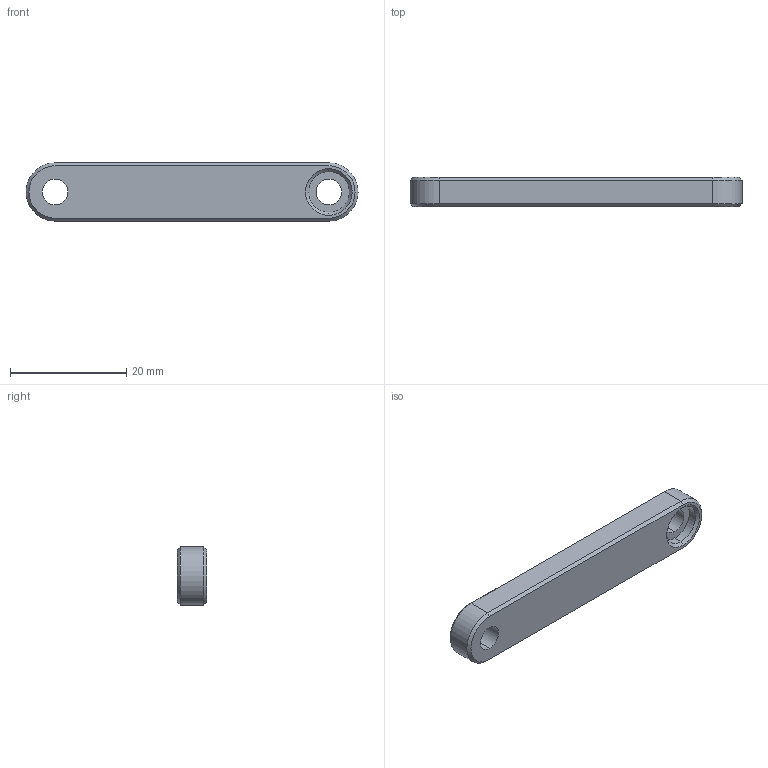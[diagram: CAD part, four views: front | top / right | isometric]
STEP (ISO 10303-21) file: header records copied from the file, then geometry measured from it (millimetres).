
FILE_DESCRIPTION (( 'STEP AP214' ), '1' );
FILE_NAME ('換雄璃2.STEP', '2024-11-14T11:33:40', ( '' ), ( '' ), 'SwSTEP 2.0', 'SolidWorks 2021', '' );
FILE_SCHEMA (( 'AUTOMOTIVE_DESIGN' ));
Length unit declared in the file: millimetre
Products named in the file (1): 換雄璃2
Bounding box: 57 x 5 x 10 mm (x, y, z)
Volume: 2510.2 mm3; surface area: 1737.7 mm2
Topology: 1 solids, 1 shells, 23 faces, 50 edges, 30 vertices
Faces by surface type: plane 9, cylinder 8, cone 6
Entity records: 668 total; most frequent: DIRECTION 120, CARTESIAN_POINT 104, ORIENTED_EDGE 100, EDGE_CURVE 50, AXIS2_PLACEMENT_3D 46, VERTEX_POINT 30, EDGE_LOOP 28, VECTOR 28
